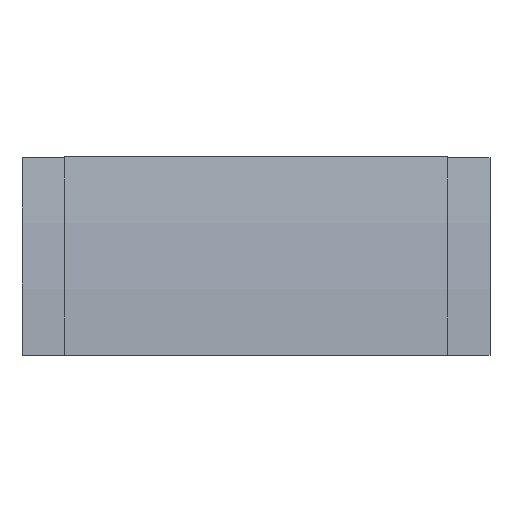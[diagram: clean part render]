
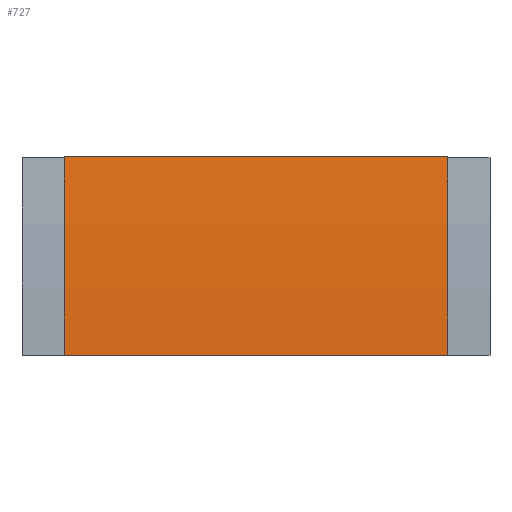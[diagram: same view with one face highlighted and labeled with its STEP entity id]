
A CAD part, front view. The second image highlights one B-rep face of the part: STEP entity #727.
In plain terms, the highlighted cylindrical face has radius 568 mm (diameter 1136 mm), a partial arc.
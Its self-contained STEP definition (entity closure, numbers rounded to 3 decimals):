
#41 = EDGE_CURVE ( 'NONE', #544, #554, #176, .T. ) ;
#44 = EDGE_CURVE ( 'NONE', #593, #597, #181, .T. ) ;
#45 = EDGE_CURVE ( 'NONE', #544, #593, #178, .T. ) ;
#46 = EDGE_CURVE ( 'NONE', #554, #597, #184, .T. ) ;
#90 = EDGE_LOOP ( 'NONE', ( #510, #511, #512, #513 ) ) ;
#176 = CIRCLE ( 'NONE', #930, 568. ) ;
#178 = LINE ( 'NONE', #398, #185 ) ;
#181 = CIRCLE ( 'NONE', #928, 568. ) ;
#184 = LINE ( 'NONE', #435, #187 ) ;
#185 = VECTOR ( 'NONE', #388, 1000. ) ;
#187 = VECTOR ( 'NONE', #406, 1000. ) ;
#251 = FACE_OUTER_BOUND ( 'NONE', #90, .T. ) ;
#266 = CYLINDRICAL_SURFACE ( 'NONE', #912, 568. ) ;
#341 = CARTESIAN_POINT ( 'NONE',  ( -95.25, -68., 0. ) ) ;
#350 = CARTESIAN_POINT ( 'NONE',  ( -95.25, -59.371, 98.632 ) ) ;
#385 = DIRECTION ( 'NONE',  ( 0., 0., -1. ) ) ;
#387 = CARTESIAN_POINT ( 'NONE',  ( 95.25, 500., 0. ) ) ;
#388 = DIRECTION ( 'NONE',  ( 1., 0., 0. ) ) ;
#398 = CARTESIAN_POINT ( 'NONE',  ( -95.25, -59.371, 98.632 ) ) ;
#406 = DIRECTION ( 'NONE',  ( 1., 0., 0. ) ) ;
#435 = CARTESIAN_POINT ( 'NONE',  ( -95.25, -68., 0. ) ) ;
#453 = DIRECTION ( 'NONE',  ( 1., 0., 0. ) ) ;
#454 = CARTESIAN_POINT ( 'NONE',  ( -95.25, 500., 0. ) ) ;
#456 = DIRECTION ( 'NONE',  ( 0., 0., -1. ) ) ;
#457 = DIRECTION ( 'NONE',  ( 1., 0., 0. ) ) ;
#510 = ORIENTED_EDGE ( 'NONE', *, *, #44, .F. ) ;
#511 = ORIENTED_EDGE ( 'NONE', *, *, #45, .F. ) ;
#512 = ORIENTED_EDGE ( 'NONE', *, *, #41, .T. ) ;
#513 = ORIENTED_EDGE ( 'NONE', *, *, #46, .T. ) ;
#544 = VERTEX_POINT ( 'NONE', #350 ) ;
#554 = VERTEX_POINT ( 'NONE', #341 ) ;
#593 = VERTEX_POINT ( 'NONE', #781 ) ;
#597 = VERTEX_POINT ( 'NONE', #785 ) ;
#727 = ADVANCED_FACE ( 'NONE', ( #251 ), #266, .T. ) ;
#781 = CARTESIAN_POINT ( 'NONE',  ( 95.25, -59.371, 98.632 ) ) ;
#785 = CARTESIAN_POINT ( 'NONE',  ( 95.25, -68., 0. ) ) ;
#800 = DIRECTION ( 'NONE',  ( 1., 0., 0. ) ) ;
#802 = DIRECTION ( 'NONE',  ( 0., 0., -1. ) ) ;
#805 = CARTESIAN_POINT ( 'NONE',  ( 0., 500., 0. ) ) ;
#912 = AXIS2_PLACEMENT_3D ( 'NONE', #805, #800, #802 ) ;
#928 = AXIS2_PLACEMENT_3D ( 'NONE', #387, #457, #456 ) ;
#930 = AXIS2_PLACEMENT_3D ( 'NONE', #454, #453, #385 ) ;
